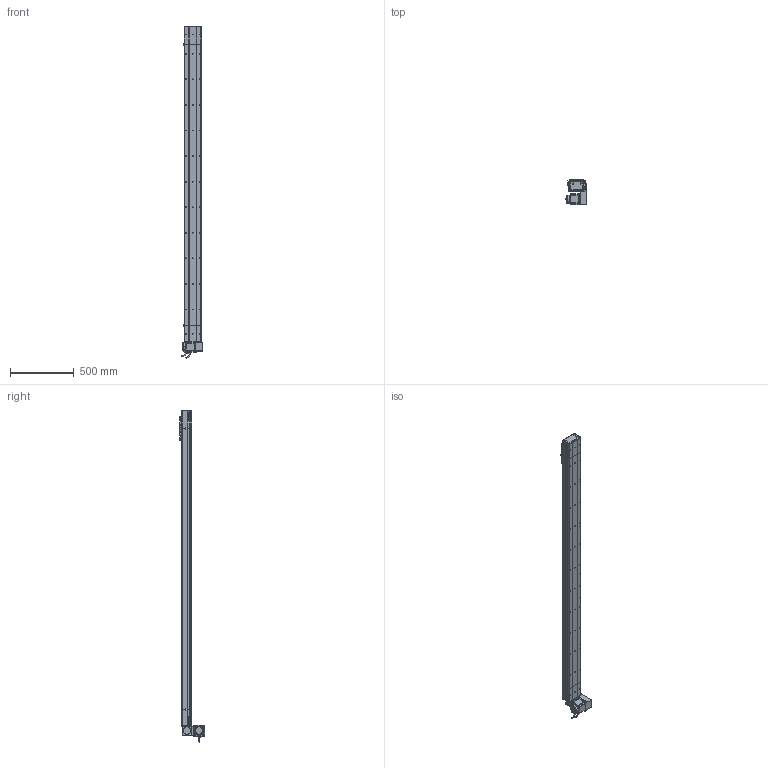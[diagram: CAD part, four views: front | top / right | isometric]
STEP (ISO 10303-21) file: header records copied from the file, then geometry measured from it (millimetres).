
FILE_DESCRIPTION (( 'STEP AP214' ), '1' );
FILE_NAME ('D14 CBH S2200 LU.STEP', '2010-06-30T07:15:11', ( 'Conseil Régional Haute-Normandie' ), ( 'Conseil Régional Haute-Normandie' ), 'SwSTEP 2.0', 'SolidWorks 2010', '' );
FILE_SCHEMA (( 'AUTOMOTIVE_DESIGN' ));
Length unit declared in the file: millimetre
Products named in the file (28): Head D14 CBH LU; couvercle Head D14 CBH; plaque de bout Head D14 CBH; corps Head D14 CBH; vis CHC M7; Vis CHC M8; Head D14 CBH; plaque de maintient CBH D14; plaque fermeture Head D14 CBH; corps CBH S2200; Course CBH S2200; D14 CBH S2200 LU; plaque de bout tail CBH d14; Tail CBH D14 B; couvercle CBH S2200; chariot D14; corps tail  CBH d14 B; couvercle tail CBH D14; vis CHC M5; chariot supérieur D14; charriot inférieur D14; Conecteur_Default; Conecteur2_Default; codeur GMB 90 70 310; corps GMB 90 70 310; avant GMB 90 70 310; GMB 90 70 310; Support moteur Head D14 CBH
Assembly tree (51 placements, depth 4):
  D14 CBH S2200 LU
    Head D14 CBH LU
      plaque fermeture Head D14 CBH  x3
      Support moteur Head D14 CBH
      Head D14 CBH
        plaque de maintient CBH D14
        vis CHC M7  x4
        couvercle Head D14 CBH
        Vis CHC M8  x2
        plaque de bout Head D14 CBH
        corps Head D14 CBH
      GMB 90 70 310
        Conecteur2_Default
        Conecteur_Default
        codeur GMB 90 70 310
        corps GMB 90 70 310
        avant GMB 90 70 310
    Tail CBH D14 B
      vis CHC M7  x4
      Vis CHC M8  x2
      corps tail  CBH d14 B
      plaque de maintient CBH D14
      plaque de bout tail CBH d14
      couvercle tail CBH D14
    chariot D14
      chariot supérieur D14
      vis CHC M5  x4
      vis CHC M7  x8
      charriot inférieur D14
    Course CBH S2200
      couvercle CBH S2200
      corps CBH S2200
Bounding box: 171.5 x 195.75 x 2595.95 mm (x, y, z)
Volume: 7317971.7 mm3; surface area: 2457002.6 mm2
Topology: 51 solids, 51 shells, 2498 faces, 6472 edges, 4252 vertices
Faces by surface type: plane 1371, bspline 538, cylinder 476, torus 61, cone 48, sphere 4
Entity records: 110661 total; most frequent: CARTESIAN_POINT 58400, ORIENTED_EDGE 11240, DIRECTION 8571, EDGE_CURVE 5620, VERTEX_POINT 3716, VECTOR 3709, LINE 3709, AXIS2_PLACEMENT_3D 2431
